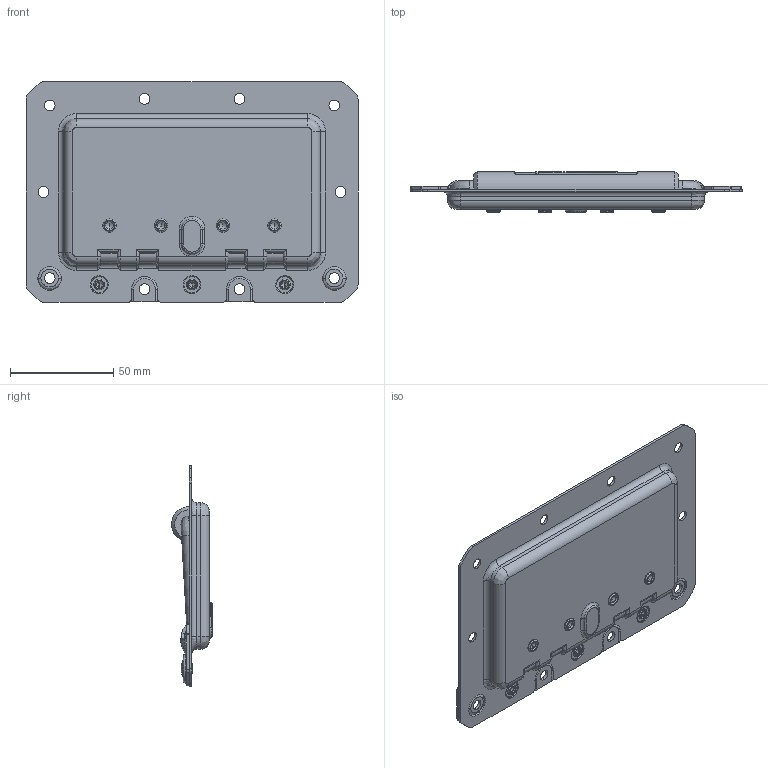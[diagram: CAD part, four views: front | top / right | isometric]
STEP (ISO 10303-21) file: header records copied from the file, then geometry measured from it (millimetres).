
FILE_DESCRIPTION (( 'STEP AP214' ), '1' );
FILE_NAME ('Penn Elcom-H1050.STEP', '2019-06-15T05:04:22', ( '' ), ( '' ), 'SwSTEP 2.0', 'SolidWorks 2019', '' );
FILE_SCHEMA (( 'AUTOMOTIVE_DESIGN' ));
Length unit declared in the file: millimetre
Products named in the file (13): Penn Elcom-H1050_H8054-1; Penn Elcom-H1050_H1050-Z-DS-1; Penn Elcom-H1050_H7151-Z-04-X-1; Penn Elcom-H1050_H7151-Z-04-X_1-1; Penn Elcom-H1050_H1050-Z-02-1; Penn Elcom-H1050_H7151-Z-04_1-1; Penn Elcom-H1050; Penn Elcom-H1050_H7151-Z-04-X_2-1; Penn Elcom-H1050_H7151-Z-04-X_3-1; Penn Elcom-H1050_H8054-SPRING-L-1; Penn Elcom-H1050_H7151-Z-04_2-1; Penn Elcom-H1050_H7151-Z-04-1; Penn Elcom-H1050_H8054-SPRING-R-1
Assembly tree (12 placements, depth 2):
  Penn Elcom-H1050
    Penn Elcom-H1050_H1050-Z-02-1
    Penn Elcom-H1050_H1050-Z-DS-1
    Penn Elcom-H1050_H7151-Z-04-1
    Penn Elcom-H1050_H7151-Z-04-X-1
    Penn Elcom-H1050_H7151-Z-04-X_1-1
    Penn Elcom-H1050_H7151-Z-04-X_2-1
    Penn Elcom-H1050_H7151-Z-04-X_3-1
    Penn Elcom-H1050_H7151-Z-04_1-1
    Penn Elcom-H1050_H7151-Z-04_2-1
    Penn Elcom-H1050_H8054-1
    Penn Elcom-H1050_H8054-SPRING-L-1
    Penn Elcom-H1050_H8054-SPRING-R-1
Bounding box: 161 x 19.76 x 107 mm (x, y, z)
Volume: 65036.3 mm3; surface area: 66769.7 mm2
Topology: 12 solids, 12 shells, 1187 faces, 3007 edges, 1853 vertices
Faces by surface type: cylinder 495, bspline 410, plane 258, cone 24
Entity records: 59554 total; most frequent: CARTESIAN_POINT 27806, ORIENTED_EDGE 5938, DIRECTION 4453, EDGE_CURVE 2969, VERTEX_POINT 1853, AXIS2_PLACEMENT_3D 1747, EDGE_LOOP 1286, FACE_OUTER_BOUND 1187
